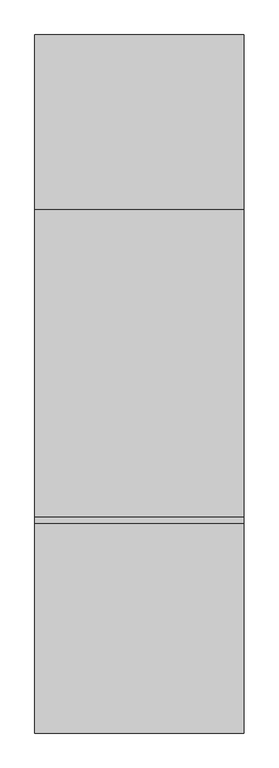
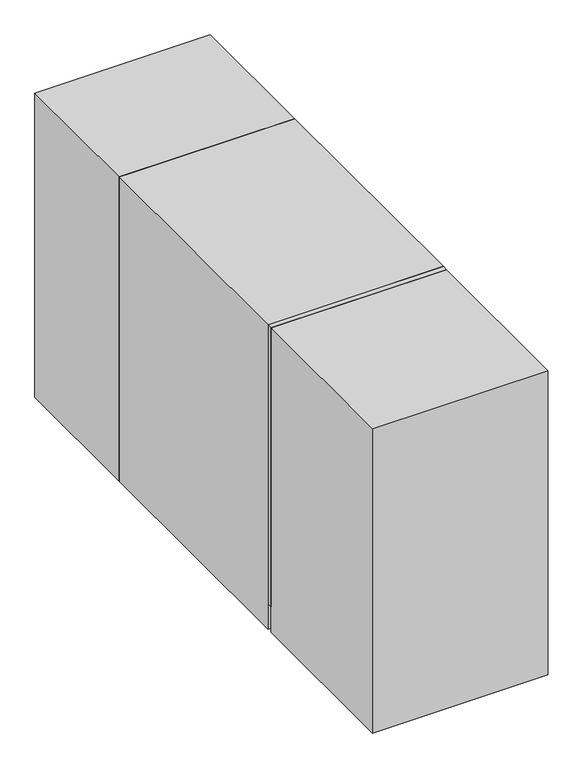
"""IFC4 building model written with IfcOpenShell, lengths in millimetres: proxy geometry, Трехфазный ИБП_ПАТРИОТ_СайберЭлектро : ПАТРИОТ-60Ш."""

from ifc_helpers import new_model, si_unit, frame, origin, origin_with_axes, place, context, project, spatial, polyline, outline, extrude, faceted_brep, source, transform, mapped, element, save


def electrical_equipment_290f26a5(model_context):
    return source(origin(), model_context, "Body", "SolidModel", [
        extrude(outline(polyline([(-300.0, 0.0), (-300.0, 500.0), (300.0, 500.0), (300.0, 0.0), (-300.0, 0.0)])), origin_with_axes(), (0.0, 0.0, 1.0), 1100.0),
        extrude(outline(polyline([(-300.0, -900.0), (300.0, -900.0), (300.0, -1500.0), (-300.0, -1500.0), (-300.0, -900.0)])), origin_with_axes(), (0.0, 0.0, 1.0), 1100.0),
        faceted_brep([(300.0, 0.0, 1100.0), (-300.0, 0.0, 1100.0), (-300.0, -880.0, 1100.0), (300.0, -880.0, 1100.0), (300.0, 0.0, 0.0), (300.0, -880.0, 0.0), (-300.0, -880.0, 0.0), (-300.0, 0.0, 0.0), (-295.0, 0.0, 142.0), (295.0, 0.0, 142.0), (295.0, 0.0, 544.0), (-295.0, 0.0, 544.0), (-295.0, -50.0, 142.0), (-295.0, -50.0, 544.0), (295.0, -50.0, 544.0), (295.0, -50.0, 142.0)], [[[0, 1, 2, 3]], [[4, 5, 6, 7]], [[1, 0, 4, 7], [8, 9, 10, 11]], [[2, 1, 7, 6]], [[3, 2, 6, 5]], [[0, 3, 5, 4]], [[12, 13, 14, 15]], [[12, 15, 9, 8]], [[15, 14, 10, 9]], [[14, 13, 11, 10]], [[13, 12, 8, 11]]]),
        extrude(outline(polyline([(300.0, -880.0), (300.0, -900.0), (-300.0, -900.0), (-300.0, -880.0), (300.0, -880.0)])), frame((0.0, 0.0, 92.0), z_axis=(0.0, 0.0, 1.0), x_axis=(1.0, 0.0, 0.0)), (0.0, 0.0, 1.0), 1008.0),
    ])


if __name__ == "__main__":
    model = new_model("IFC4")
    model_context = context("Model", 3, world=origin())
    ifc_project = project(units=[si_unit("LENGTHUNIT", "METRE", prefix="MILLI")], contexts=[model_context])
    site = spatial("IfcSite", under=ifc_project)
    building = spatial("IfcBuilding", under=site)
    placement = place(None, origin())
    electrical_equipment_shape = electrical_equipment_290f26a5(model_context)
    element("IfcBuildingElementProxy", 1, Name="Трехфазный ИБП_ПАТРИОТ_СайберЭлектро : ПАТРИОТ-60Ш", ObjectType="Трехфазный ИБП_ПАТРИОТ_СайберЭлектро : ПАТРИОТ-60Ш", at=placement, inside=building, context=model_context, shape_type="MappedRepresentation", body=[
        mapped(electrical_equipment_shape, transform((0.0, 0.0, 0.0), x_axis=(1.0, 0.0, 0.0), y_axis=(0.0, 1.0, 0.0), z_axis=(0.0, 0.0, 1.0))),
    ])
    save(model, "model.ifc")
